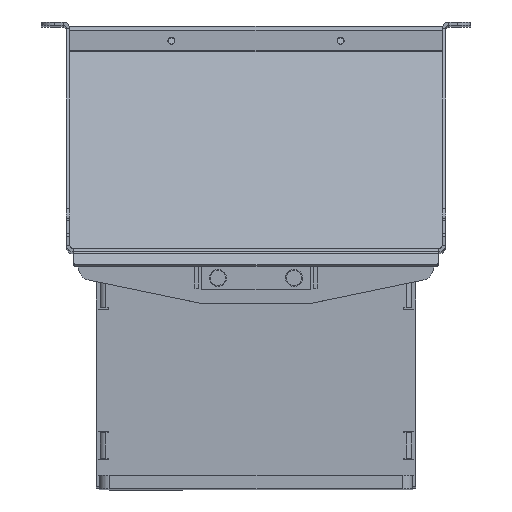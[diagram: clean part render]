
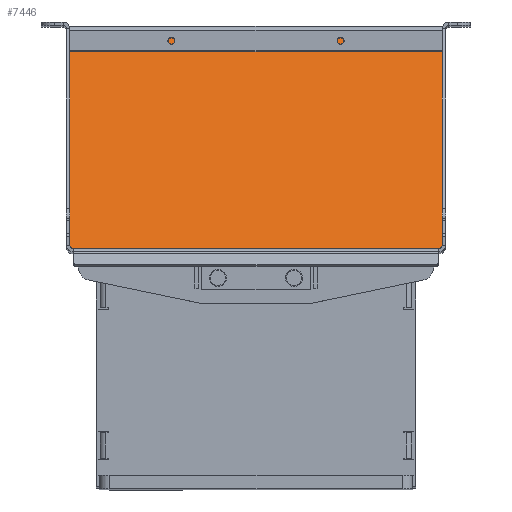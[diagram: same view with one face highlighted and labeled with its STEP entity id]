
A CAD part, top view. The second image highlights one B-rep face of the part: STEP entity #7446.
In plain terms, the highlighted planar face has unit normal (0, 0.342, 0.94) as drawn and (0, 0.342, -0.94) by its records, which use the part's own axes.
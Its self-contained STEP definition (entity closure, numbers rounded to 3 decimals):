
#101 = B_SPLINE_CURVE_WITH_KNOTS ( 'NONE', 3,
 ( #26369, #10334, #29022, #20628, #28668, #4965, #15390 ),
 .UNSPECIFIED., .F., .F.,
 ( 4, 1, 1, 1, 4 ),
 ( 0., 0.256, 0.507, 0.754, 1. ),
 .UNSPECIFIED. ) ;
#597 = CARTESIAN_POINT ( 'NONE',  ( 109.823, 1.373, 721.9 ) ) ;
#668 = ORIENTED_EDGE ( 'NONE', *, *, #31802, .F. ) ;
#2102 = ORIENTED_EDGE ( 'NONE', *, *, #31156, .F. ) ;
#2449 = LINE ( 'NONE', #31407, #33621 ) ;
#3022 = CARTESIAN_POINT ( 'NONE',  ( 109.928, 1.943, 722.108 ) ) ;
#3151 = DIRECTION ( 'NONE',  ( 1., 0., 0. ) ) ;
#3437 = DIRECTION ( 'NONE',  ( 0., 0.94, 0.342 ) ) ;
#4818 = CARTESIAN_POINT ( 'NONE',  ( 109.804, 1.316, 721.879 ) ) ;
#4965 = CARTESIAN_POINT ( 'NONE',  ( -109.928, 1.943, 722.108 ) ) ;
#5408 = VECTOR ( 'NONE', #25800, 1000. ) ;
#6076 = EDGE_CURVE ( 'NONE', #22868, #30872, #2449, .T. ) ;
#6675 = VECTOR ( 'NONE', #3151, 1000. ) ;
#7446 = ADVANCED_FACE ( 'NONE', ( #24875 ), #9027, .T. ) ;
#7542 = DIRECTION ( 'NONE',  ( 0., 0.94, 0.342 ) ) ;
#7866 = ORIENTED_EDGE ( 'NONE', *, *, #6076, .T. ) ;
#8406 = LINE ( 'NONE', #18661, #6675 ) ;
#8872 = CARTESIAN_POINT ( 'NONE',  ( -108., 130., 768.717 ) ) ;
#9027 = PLANE ( 'NONE',  #22849 ) ;
#9601 = CARTESIAN_POINT ( 'NONE',  ( 109.929, 1.316, 721.879 ) ) ;
#9817 = ORIENTED_EDGE ( 'NONE', *, *, #10142, .T. ) ;
#10142 = EDGE_CURVE ( 'NONE', #28022, #22868, #101, .T. ) ;
#10334 = CARTESIAN_POINT ( 'NONE',  ( -109.823, 1.373, 721.9 ) ) ;
#10540 = CARTESIAN_POINT ( 'NONE',  ( -109.929, 2., 722.128 ) ) ;
#11073 = CARTESIAN_POINT ( 'NONE',  ( 109.929, 2., 722.128 ) ) ;
#13256 = VERTEX_POINT ( 'NONE', #4818 ) ;
#13729 = CARTESIAN_POINT ( 'NONE',  ( 109.929, 130., 768.717 ) ) ;
#15390 = CARTESIAN_POINT ( 'NONE',  ( -109.929, 2., 722.128 ) ) ;
#16254 = CARTESIAN_POINT ( 'NONE',  ( 109.929, 2., 722.128 ) ) ;
#16670 = DIRECTION ( 'NONE',  ( 0., 0.342, -0.94 ) ) ;
#16836 = DIRECTION ( 'NONE',  ( -1., 0., 0. ) ) ;
#17612 = EDGE_CURVE ( 'NONE', #28022, #13256, #8406, .T. ) ;
#18661 = CARTESIAN_POINT ( 'NONE',  ( -108., 1.316, 721.879 ) ) ;
#18888 = CARTESIAN_POINT ( 'NONE',  ( 109.804, 1.316, 721.879 ) ) ;
#19136 = B_SPLINE_CURVE_WITH_KNOTS ( 'NONE', 3,
 ( #18888, #597, #21338, #32154, #27289, #3022, #16254 ),
 .UNSPECIFIED., .F., .F.,
 ( 4, 1, 1, 1, 4 ),
 ( 0., 0.256, 0.507, 0.754, 1. ),
 .UNSPECIFIED. ) ;
#20375 = VECTOR ( 'NONE', #16836, 1000. ) ;
#20628 = CARTESIAN_POINT ( 'NONE',  ( -109.9, 1.657, 722.003 ) ) ;
#21338 = CARTESIAN_POINT ( 'NONE',  ( 109.861, 1.485, 721.941 ) ) ;
#22575 = CARTESIAN_POINT ( 'NONE',  ( -109.929, 130., 768.717 ) ) ;
#22623 = LINE ( 'NONE', #8872, #20375 ) ;
#22849 = AXIS2_PLACEMENT_3D ( 'NONE', #30309, #16670, #3437 ) ;
#22856 = LINE ( 'NONE', #9601, #5408 ) ;
#22865 = EDGE_LOOP ( 'NONE', ( #2102, #668, #26247, #26032, #9817, #7866 ) ) ;
#22868 = VERTEX_POINT ( 'NONE', #10540 ) ;
#24875 = FACE_OUTER_BOUND ( 'NONE', #22865, .T. ) ;
#25771 = EDGE_CURVE ( 'NONE', #13256, #26742, #19136, .T. ) ;
#25800 = DIRECTION ( 'NONE',  ( 0., 0.94, 0.342 ) ) ;
#26032 = ORIENTED_EDGE ( 'NONE', *, *, #17612, .F. ) ;
#26247 = ORIENTED_EDGE ( 'NONE', *, *, #25771, .F. ) ;
#26369 = CARTESIAN_POINT ( 'NONE',  ( -109.804, 1.316, 721.879 ) ) ;
#26742 = VERTEX_POINT ( 'NONE', #11073 ) ;
#27289 = CARTESIAN_POINT ( 'NONE',  ( 109.925, 1.828, 722.066 ) ) ;
#28022 = VERTEX_POINT ( 'NONE', #33292 ) ;
#28668 = CARTESIAN_POINT ( 'NONE',  ( -109.925, 1.828, 722.066 ) ) ;
#29022 = CARTESIAN_POINT ( 'NONE',  ( -109.861, 1.485, 721.941 ) ) ;
#30309 = CARTESIAN_POINT ( 'NONE',  ( 0., -231.404, 637.176 ) ) ;
#30872 = VERTEX_POINT ( 'NONE', #22575 ) ;
#31120 = VERTEX_POINT ( 'NONE', #13729 ) ;
#31156 = EDGE_CURVE ( 'NONE', #31120, #30872, #22623, .T. ) ;
#31407 = CARTESIAN_POINT ( 'NONE',  ( -109.929, 1.316, 721.879 ) ) ;
#31802 = EDGE_CURVE ( 'NONE', #26742, #31120, #22856, .T. ) ;
#32154 = CARTESIAN_POINT ( 'NONE',  ( 109.9, 1.657, 722.003 ) ) ;
#33292 = CARTESIAN_POINT ( 'NONE',  ( -109.804, 1.316, 721.879 ) ) ;
#33621 = VECTOR ( 'NONE', #7542, 1000. ) ;
